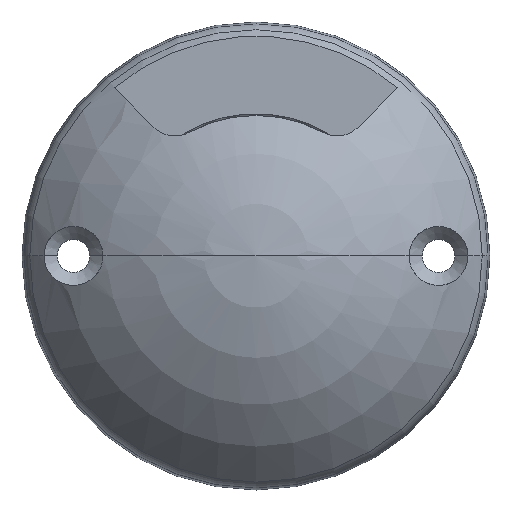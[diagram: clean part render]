
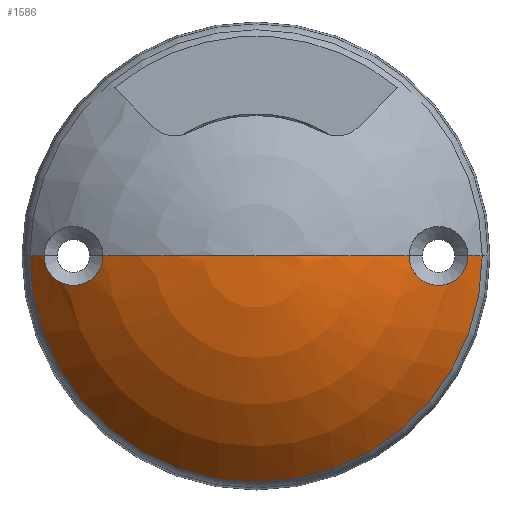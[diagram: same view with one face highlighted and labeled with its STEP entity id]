
A CAD part, top view. The second image highlights one B-rep face of the part: STEP entity #1586.
In plain terms, the highlighted spherical face has radius 30.538 mm.
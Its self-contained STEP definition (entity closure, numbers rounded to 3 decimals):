
#505=CARTESIAN_POINT('',(17.723,-2.601,9.195));
#506=CARTESIAN_POINT('',(17.576,-2.501,9.31));
#507=CARTESIAN_POINT('',(17.302,-2.277,9.525));
#508=CARTESIAN_POINT('',(16.953,-1.879,9.795));
#509=CARTESIAN_POINT('',(16.678,-1.431,10.006));
#510=CARTESIAN_POINT('',(16.483,-0.952,10.154));
#511=CARTESIAN_POINT('',(16.372,-0.469,10.238));
#512=CARTESIAN_POINT('',(16.35,-0.154,10.254));
#513=CARTESIAN_POINT('',(16.35,0.,10.254));
#515=CARTESIAN_POINT('',(22.649,0.,4.947));
#516=CARTESIAN_POINT('',(22.649,-0.079,4.947));
#517=CARTESIAN_POINT('',(22.644,-0.237,4.95));
#518=CARTESIAN_POINT('',(22.617,-0.475,4.977));
#519=CARTESIAN_POINT('',(22.572,-0.712,5.019));
#520=CARTESIAN_POINT('',(22.508,-0.946,5.08));
#521=CARTESIAN_POINT('',(22.425,-1.177,5.158));
#522=CARTESIAN_POINT('',(22.323,-1.405,5.254));
#523=CARTESIAN_POINT('',(22.199,-1.631,5.37));
#524=CARTESIAN_POINT('',(22.05,-1.856,5.508));
#525=CARTESIAN_POINT('',(21.874,-2.077,5.671));
#526=CARTESIAN_POINT('',(21.67,-2.289,5.858));
#527=CARTESIAN_POINT('',(21.44,-2.488,6.066));
#528=CARTESIAN_POINT('',(21.185,-2.668,6.296));
#529=CARTESIAN_POINT('',(20.905,-2.826,6.545));
#530=CARTESIAN_POINT('',(20.604,-2.956,6.808));
#531=CARTESIAN_POINT('',(20.287,-3.056,7.084));
#532=CARTESIAN_POINT('',(19.958,-3.123,7.365));
#533=CARTESIAN_POINT('',(19.624,-3.153,7.648));
#534=CARTESIAN_POINT('',(19.297,-3.149,7.921));
#535=CARTESIAN_POINT('',(18.984,-3.112,8.18));
#536=CARTESIAN_POINT('',(18.69,-3.049,8.42));
#537=CARTESIAN_POINT('',(18.419,-2.963,8.64));
#538=CARTESIAN_POINT('',(18.169,-2.859,8.841));
#539=CARTESIAN_POINT('',(17.936,-2.739,9.026));
#540=CARTESIAN_POINT('',(17.792,-2.648,9.14));
#541=CARTESIAN_POINT('',(17.723,-2.601,9.195));
#543=CARTESIAN_POINT('',(0.,0.,-15.538));
#544=DIRECTION('',(0.,1.,0.));
#545=DIRECTION('',(0.742,0.,0.671));
#546=AXIS2_PLACEMENT_3D('',#543,#544,#545);
#548=CARTESIAN_POINT('',(0.,0.,-15.538));
#549=DIRECTION('',(0.,-1.,0.));
#550=DIRECTION('',(-0.742,0.,0.671));
#551=AXIS2_PLACEMENT_3D('',#548,#549,#550);
#553=CARTESIAN_POINT('',(-21.833,-2.116,5.708));
#554=CARTESIAN_POINT('',(-21.943,-1.995,5.608));
#555=CARTESIAN_POINT('',(-22.141,-1.739,5.424));
#556=CARTESIAN_POINT('',(-22.374,-1.319,5.207));
#557=CARTESIAN_POINT('',(-22.537,-0.877,
5.052));
#558=CARTESIAN_POINT('',(-22.632,-0.426,
4.962));
#559=CARTESIAN_POINT('',(-22.649,-0.139,
4.947));
#560=CARTESIAN_POINT('',(-22.649,0.,4.947));
#562=CARTESIAN_POINT('',(-16.351,0.,10.254));
#563=CARTESIAN_POINT('',(-16.351,-0.158,
10.254));
#564=CARTESIAN_POINT('',(-16.374,-0.478,
10.237));
#565=CARTESIAN_POINT('',(-16.484,-0.954,
10.153));
#566=CARTESIAN_POINT('',(-16.673,-1.42,10.009));
#567=CARTESIAN_POINT('',(-16.94,-1.86,9.805));
#568=CARTESIAN_POINT('',(-17.289,-2.266,9.535));
#569=CARTESIAN_POINT('',(-17.725,-2.624,9.194));
#570=CARTESIAN_POINT('',(-18.241,-2.909,8.784));
#571=CARTESIAN_POINT('',(-18.84,-3.103,8.3));
#572=CARTESIAN_POINT('',(-19.504,-3.174,7.751));
#573=CARTESIAN_POINT('',(-20.181,-3.101,7.176));
#574=CARTESIAN_POINT('',(-20.83,-2.882,6.612));
#575=CARTESIAN_POINT('',(-21.398,-2.541,6.106));
#576=CARTESIAN_POINT('',(-21.7,-2.263,5.831));
#577=CARTESIAN_POINT('',(-21.833,-2.116,5.708));
#579=CARTESIAN_POINT('',(0.,0.,-15.538));
#580=DIRECTION('',(0.,-1.,0.));
#581=DIRECTION('',(0.,0.,1.));
#582=AXIS2_PLACEMENT_3D('',#579,#580,#581);
#584=CARTESIAN_POINT('',(0.,0.,-15.538));
#585=DIRECTION('',(0.,1.,0.));
#586=DIRECTION('',(0.,0.,1.));
#587=AXIS2_PLACEMENT_3D('',#584,#585,#586);
#589=CARTESIAN_POINT('',(0.,0.,3.133));
#590=DIRECTION('',(0.,0.,-1.));
#591=DIRECTION('',(1.,0.,0.));
#592=AXIS2_PLACEMENT_3D('',#589,#590,#591);
#927=CARTESIAN_POINT('',(0.,0.,15.));
#928=CARTESIAN_POINT('',(16.352,0.,10.253));
#929=VERTEX_POINT('',#927);
#930=VERTEX_POINT('',#928);
#931=CARTESIAN_POINT('',(-16.351,0.,10.254));
#932=VERTEX_POINT('',#931);
#933=CARTESIAN_POINT('',(-22.648,0.,4.947));
#934=CARTESIAN_POINT('',(-24.165,0.,3.133));
#935=VERTEX_POINT('',#933);
#936=VERTEX_POINT('',#934);
#937=CARTESIAN_POINT('',(22.65,0.,4.945));
#938=CARTESIAN_POINT('',(24.165,0.,3.133));
#939=VERTEX_POINT('',#937);
#940=VERTEX_POINT('',#938);
#994=VERTEX_POINT('',#541);
#1008=VERTEX_POINT('',#577);
#1567=CARTESIAN_POINT('',(0.,0.,-15.538));
#1568=DIRECTION('',(0.,0.,-1.));
#1569=DIRECTION('',(-1.,0.,0.));
#1570=AXIS2_PLACEMENT_3D('',#1567,#1568,#1569);
#1571=SPHERICAL_SURFACE('',#1570,30.538);
#1572=ORIENTED_EDGE('',*,*,#1558,.F.);
#1573=ORIENTED_EDGE('',*,*,#1556,.F.);
#1574=ORIENTED_EDGE('',*,*,#1518,.T.);
#1576=ORIENTED_EDGE('',*,*,#1575,.T.);
#1577=ORIENTED_EDGE('',*,*,#1514,.F.);
#1579=ORIENTED_EDGE('',*,*,#1578,.F.);
#1581=ORIENTED_EDGE('',*,*,#1580,.F.);
#1582=ORIENTED_EDGE('',*,*,#1508,.F.);
#1583=ORIENTED_EDGE('',*,*,#1506,.T.);
#1584=EDGE_LOOP('',(#1572,#1573,#1574,#1576,#1577,#1579,#1581,#1582,#1583));
#1585=FACE_OUTER_BOUND('',#1584,.F.);
#1586=ADVANCED_FACE('',(#1585),#1571,.T.);
#514=B_SPLINE_CURVE_WITH_KNOTS('',3,(#505,#506,#507,#508,#509,#510,#511,#512,
#513),.UNSPECIFIED.,.F.,.F.,(4,1,1,1,1,1,4),(0.,0.167,
0.333,0.5,0.667,0.833,1.),
.UNSPECIFIED.);
#542=B_SPLINE_CURVE_WITH_KNOTS('',3,(#515,#516,#517,#518,#519,#520,#521,#522,
#523,#524,#525,#526,#527,#528,#529,#530,#531,#532,#533,#534,#535,#536,#537,#538,
#539,#540,#541),.UNSPECIFIED.,.F.,.F.,(4,1,1,1,1,1,1,1,1,1,1,1,1,1,1,1,1,1,1,1,
1,1,1,1,4),(0.,0.042,0.083,0.125,0.167,
0.208,0.25,0.292,0.333,0.375,
0.417,0.458,0.5,0.542,0.583,
0.625,0.667,0.708,0.75,0.792,
0.833,0.875,0.917,0.958,1.),
.UNSPECIFIED.);
#547=CIRCLE('',#546,30.538);
#552=CIRCLE('',#551,30.538);
#561=B_SPLINE_CURVE_WITH_KNOTS('',3,(#553,#554,#555,#556,#557,#558,#559,#560),
.UNSPECIFIED.,.F.,.F.,(4,1,1,1,1,4),(0.,0.2,0.4,0.6,0.8,1.),
.UNSPECIFIED.);
#578=B_SPLINE_CURVE_WITH_KNOTS('',3,(#562,#563,#564,#565,#566,#567,#568,#569,
#570,#571,#572,#573,#574,#575,#576,#577),.UNSPECIFIED.,.F.,.F.,(4,1,1,1,1,1,1,1,
1,1,1,1,1,4),(0.,0.077,0.154,0.231,
0.308,0.385,0.462,0.538,
0.615,0.692,0.769,0.846,
0.923,1.),.UNSPECIFIED.);
#583=CIRCLE('',#582,30.538);
#588=CIRCLE('',#587,30.538);
#593=CIRCLE('',#592,24.165);
#1506=EDGE_CURVE('',#929,#930,#588,.T.);
#1508=EDGE_CURVE('',#929,#932,#583,.T.);
#1514=EDGE_CURVE('',#935,#936,#552,.T.);
#1518=EDGE_CURVE('',#939,#940,#547,.T.);
#1556=EDGE_CURVE('',#939,#994,#542,.T.);
#1558=EDGE_CURVE('',#994,#930,#514,.T.);
#1575=EDGE_CURVE('',#940,#936,#593,.T.);
#1578=EDGE_CURVE('',#1008,#935,#561,.T.);
#1580=EDGE_CURVE('',#932,#1008,#578,.T.);
